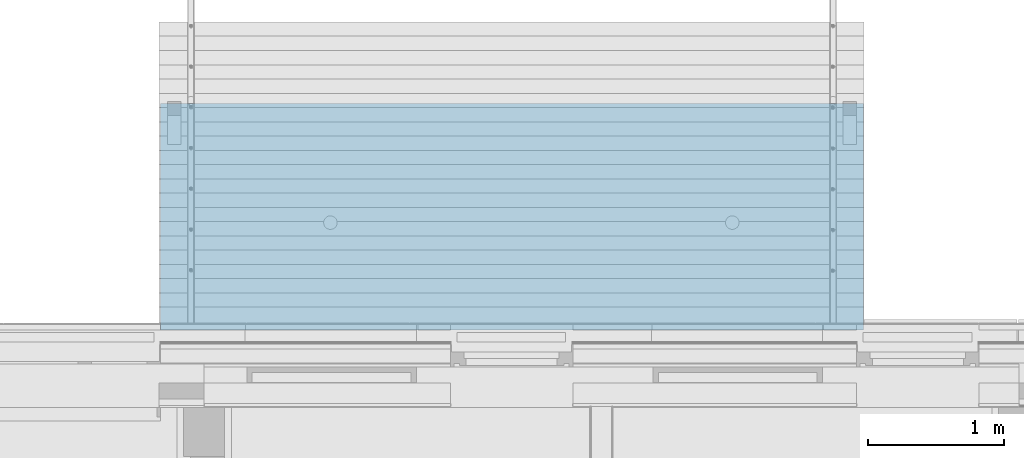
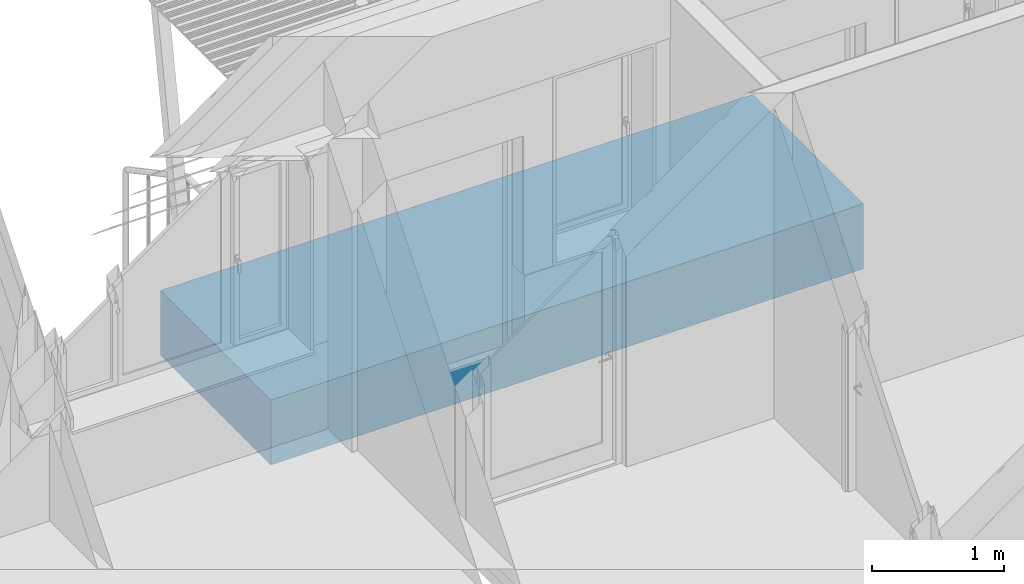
# One storey, part 92 of 418: 1 stair.
"""IFC2X3 building model written with IfcOpenShell, lengths in millimetres."""

import ifcopenshell
import ifcopenshell.guid

model = None  # the IFC model being written
_history = None  # IfcOwnerHistory: only IFC2X3 demands one
_inside = {}  # id of a spatial element -> (the spatial element, [elements in it])
_under = {}  # id of a project, library or spatial element -> (it, [spatial elements below it])
_declared = {}  # id of a project -> (the project, [libraries it declares])
_typed = {}  # id of a type object -> (the type object, [elements of that type])
_made_of = {}  # id of a material, layer set ... -> (it, [elements and type objects made of it])


def new_model(schema):
    """Start an empty IFC model of exactly this schema.

    Asked for "IFC4X3", IfcOpenShell would pick the latest addendum, in which some entities
    have other attributes; the version numbers below select the first issue.
    IFC2X3 requires an IfcOwnerHistory on every rooted entity: one is made here for all.
    """
    global model, _history
    if schema == "IFC4X3":
        model = ifcopenshell.file(schema_version=(4, 3, 0, 0))
    else:
        model = ifcopenshell.file(schema=schema)
    _inside.clear()
    _under.clear()
    _declared.clear()
    _typed.clear()
    _made_of.clear()
    _history = None
    if model.schema == "IFC2X3":
        org = make("IfcOrganization", Name="unknown")
        user = make(
            "IfcPersonAndOrganization",
            ThePerson=make("IfcPerson", FamilyName="unknown"),
            TheOrganization=org,
        )
        app = make(
            "IfcApplication",
            ApplicationDeveloper=org,
            Version="unknown",
            ApplicationFullName="unknown",
            ApplicationIdentifier="unknown",
        )
        _history = make(
            "IfcOwnerHistory",
            OwningUser=user,
            OwningApplication=app,
            ChangeAction="ADDED",
            CreationDate=0,
        )
    return model


def make(cls, **values):
    """One entity of the class cls with the attributes given. An attribute that is None is left unset."""
    return model.create_entity(
        cls, **{name: value for name, value in values.items() if value is not None}
    )


def entity(cls, *values):
    """Any entity or typed value of the class cls, its attributes in the order of the schema. None: left unset."""
    e = model.create_entity(cls)
    for i, value in enumerate(values):
        if value is not None:
            e[i] = value
    return e


def rooted(cls, **values):
    """An entity with a GlobalId (a new one), such as an element, a storey or a relation."""
    return make(cls, GlobalId=ifcopenshell.guid.new(), OwnerHistory=_history, **values)


def si_unit(unit_type, name, prefix=None):
    """IfcSIUnit, for example si_unit("LENGTHUNIT", "METRE", prefix="MILLI")."""
    return make("IfcSIUnit", UnitType=unit_type, Prefix=prefix, Name=name)


def converted_unit(unit_type, name, factor, base, dimensions=None, offset=None):
    """IfcConversionBasedUnit, such as the inch: factor (a typed value) times the base unit."""
    return make(
        "IfcConversionBasedUnit"
        if offset is None
        else "IfcConversionBasedUnitWithOffset",
        ConversionOffset=offset,
        Dimensions=None
        if dimensions is None
        else entity("IfcDimensionalExponents", *dimensions),
        UnitType=unit_type,
        Name=name,
        ConversionFactor=make(
            "IfcMeasureWithUnit", ValueComponent=factor, UnitComponent=base
        ),
    )


def derived_unit(unit_type, elements):
    """IfcDerivedUnit: a product of units, each with its exponent."""
    return make(
        "IfcDerivedUnit",
        Elements=[
            make("IfcDerivedUnitElement", Unit=unit, Exponent=power)
            for unit, power in elements
        ],
        UnitType=unit_type,
    )


def money_unit(currency):
    """IfcMonetaryUnit."""
    return make("IfcMonetaryUnit", Currency=currency)


def assignment(units):
    """IfcUnitAssignment: the units of a project."""
    return None if units is None else make("IfcUnitAssignment", Units=units)


def point(xyz):
    """IfcCartesianPoint."""
    return None if xyz is None else make("IfcCartesianPoint", Coordinates=xyz)


def direction(xyz):
    """IfcDirection."""
    return None if xyz is None else make("IfcDirection", DirectionRatios=xyz)


def frame(location, z_axis=None, x_axis=None):
    """IfcAxis2Placement3D, a coordinate frame: its origin and axes. An axis left out is left unset."""
    return make(
        "IfcAxis2Placement3D",
        Location=point(location),
        Axis=direction(z_axis),
        RefDirection=direction(x_axis),
    )


def origin_with_axes():
    """The frame at (0, 0, 0) with the z axis (0, 0, 1) and the x axis (1, 0, 0) written out."""
    return frame((0.0, 0.0, 0.0), z_axis=(0.0, 0.0, 1.0), x_axis=(1.0, 0.0, 0.0))


def place(relative_to, where):
    """IfcLocalPlacement: puts the frame where relative to a parent placement (None: the world)."""
    return make(
        "IfcLocalPlacement", PlacementRelTo=relative_to, RelativePlacement=where
    )


def context(
    kind, dimensions, precision=None, world=None, true_north=None, identifier=None
):
    """IfcGeometricRepresentationContext, for example the 3D "Model" context."""
    return make(
        "IfcGeometricRepresentationContext",
        ContextIdentifier=identifier,
        ContextType=kind,
        CoordinateSpaceDimension=dimensions,
        Precision=precision,
        WorldCoordinateSystem=world,
        TrueNorth=true_north,
    )


def subcontext(parent, identifier, kind, view, scale=None):
    """IfcGeometricRepresentationSubContext, for example "Body" below "Model"."""
    return make(
        "IfcGeometricRepresentationSubContext",
        ContextIdentifier=identifier,
        ContextType=kind,
        ParentContext=parent,
        TargetScale=scale,
        TargetView=view,
    )


def project(units=None, contexts=None):
    """IfcProject with its units and contexts."""
    return rooted(
        "IfcProject",
        Name="project",
        RepresentationContexts=contexts,
        UnitsInContext=assignment(units),
    )


def spatial(cls, under=None, at=None, **own):
    """A site, building, storey or space (cls), placed at a placement, below another one or the project."""
    s = rooted(cls, ObjectPlacement=at, **own)
    if under is not None:
        _under.setdefault(under.id(), (under, []))[1].append(s)
    return s


def polyline(points):
    """IfcPolyline through the points."""
    return make("IfcPolyline", Points=[point(p) for p in points])


def outline(outer, holes=None, kind="AREA"):
    """IfcArbitraryClosedProfileDef: a profile drawn as a closed curve; with holes, ...WithVoids."""
    if holes is None:
        return make("IfcArbitraryClosedProfileDef", ProfileType=kind, OuterCurve=outer)
    return make(
        "IfcArbitraryProfileDefWithVoids",
        ProfileType=kind,
        OuterCurve=outer,
        InnerCurves=holes,
    )


def extrude(swept, where, along, depth):
    """IfcExtrudedAreaSolid: the profile swept, set in the frame where, extruded along a direction by depth."""
    return make(
        "IfcExtrudedAreaSolid",
        SweptArea=swept,
        Position=where,
        ExtrudedDirection=direction(along),
        Depth=depth,
    )


def boolean(op, a, b):
    """IfcBooleanResult of two solids."""
    return make("IfcBooleanResult", Operator=op, FirstOperand=a, SecondOperand=b)


def faces_of(points, faces, orient=None, outer=None):
    """IfcFace entities. A face is a list of loops; a loop is a list of indices into points, from 0.

    orient and outer hold one flag for each loop. By default every Orientation is true, the
    first loop of a face is its IfcFaceOuterBound and the others are IfcFaceBound.
    """
    made = []
    for i, loops in enumerate(faces):
        bounds = []
        for j, loop in enumerate(loops):
            is_outer = j == 0 if outer is None else outer[i][j]
            bounds.append(
                make(
                    "IfcFaceOuterBound" if is_outer else "IfcFaceBound",
                    Bound=make("IfcPolyLoop", Polygon=[points[k] for k in loop]),
                    Orientation=True if orient is None else orient[i][j],
                )
            )
        made.append(make("IfcFace", Bounds=bounds))
    return made


def faceted_brep(points, faces, orient=None, outer=None, voids=None):
    """IfcFacetedBrep: a solid bounded by flat faces; with voids (closed shells), ...WithVoids."""
    shared = [point(p) for p in points]
    hull = make("IfcClosedShell", CfsFaces=faces_of(shared, faces, orient, outer))
    if voids is None:
        return make("IfcFacetedBrep", Outer=hull)
    return make(
        "IfcFacetedBrepWithVoids",
        Outer=hull,
        Voids=[
            make(cls, CfsFaces=faces_of(shared, fs, o, b)) for cls, fs, o, b in voids
        ],
    )


def shape(context_of_items, identifier, shape_type, items):
    """IfcShapeRepresentation: the items that make up one representation, for example the "Body"."""
    return make(
        "IfcShapeRepresentation",
        ContextOfItems=context_of_items,
        RepresentationIdentifier=identifier,
        RepresentationType=shape_type,
        Items=items,
    )


def material(Name=None, Category=None):
    """IfcMaterial."""
    return make("IfcMaterial", Name=Name, Category=Category)


def made_of(thing, what):
    """Note that an element or type object is made of a material, layer set ...; save() writes the relation."""
    if what is not None:
        _made_of.setdefault(what.id(), (what, []))[1].append(thing)
    return thing


def element(
    cls,
    number,
    at=None,
    inside=None,
    cuts=None,
    type_object=None,
    material=None,
    context=None,
    identifier="Body",
    shape_type=None,
    held_by="IfcProductDefinitionShape",
    body=None,
    shapes=None,
    **own,
):
    """One element of the class cls, such as IfcWall. Its Tag is "e" and its number.

    at: its placement. inside: the storey or other place that contains it. cuts: it is an
    opening in that element (IfcRelVoidsElement). A single representation is given by context,
    identifier, shape_type and body (its items); several are given by shapes. held_by: the class
    of the entity that holds the representations. save() writes the other relations.
    """
    e = rooted(cls, Tag="e%d" % number, ObjectPlacement=at, **own)
    if body is not None:
        shapes = [shape(context, identifier, shape_type, body)]
    if shapes is not None:
        e.Representation = make(held_by, Representations=shapes)
    if inside is not None:
        _inside.setdefault(inside.id(), (inside, []))[1].append(e)
    if cuts is not None:
        rooted(
            "IfcRelVoidsElement", RelatingBuildingElement=cuts, RelatedOpeningElement=e
        )
    if type_object is not None:
        _typed.setdefault(type_object.id(), (type_object, []))[1].append(e)
    return made_of(e, material)


def aggregate(whole, parts):
    """IfcRelAggregates: a whole, such as a stair, and the parts it consists of."""
    return rooted("IfcRelAggregates", RelatingObject=whole, RelatedObjects=parts)


def save(model, path):
    """Write the relations noted so far, then the file.

    IfcRelAggregates (storeys below a building ...), IfcRelContainedInSpatialStructure (elements
    in a storey), IfcRelDefinesByType, IfcRelAssociatesMaterial and IfcRelDeclares: one each for
    every whole, place, type object, material and project.
    """
    for whole, parts in _under.values():
        aggregate(whole, parts)
    for where, things in _inside.values():
        rooted(
            "IfcRelContainedInSpatialStructure",
            RelatedElements=things,
            RelatingStructure=where,
        )
    for kind, things in _typed.values():
        rooted("IfcRelDefinesByType", RelatedObjects=things, RelatingType=kind)
    for what, things in _made_of.values():
        rooted("IfcRelAssociatesMaterial", RelatedObjects=things, RelatingMaterial=what)
    for by, libraries in _declared.values():
        rooted("IfcRelDeclares", RelatingContext=by, RelatedDefinitions=libraries)
    model.write(path)


model = new_model("IFC2X3")

# Units and contexts
model_context = context("Model", 3, precision=0.01, world=origin_with_axes(), true_north=direction((0.0, 1.0)))
body_context = subcontext(model_context, "Body", "Model", "MODEL_VIEW")
ifc_project = project(units=[si_unit("LENGTHUNIT", "METRE", prefix="MILLI"), si_unit("AREAUNIT", "SQUARE_METRE"), si_unit("VOLUMEUNIT", "CUBIC_METRE"), converted_unit("PLANEANGLEUNIT", "DEGREE", entity("IfcPlaneAngleMeasure", 0.0174532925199), si_unit("PLANEANGLEUNIT", "RADIAN"), dimensions=[0, 0, 0, 0, 0, 0, 0]), si_unit("SOLIDANGLEUNIT", "STERADIAN"), money_unit("EUR"), converted_unit("TIMEUNIT", "Year", entity("IfcTimeMeasure", 31556926.0), si_unit("TIMEUNIT", "SECOND"), dimensions=[0, 0, 1, 0, 0, 0, 0]), si_unit("MASSUNIT", "GRAM", prefix="KILO"), si_unit("THERMODYNAMICTEMPERATUREUNIT", "DEGREE_CELSIUS"), si_unit("LUMINOUSINTENSITYUNIT", "LUMEN"), si_unit("ENERGYUNIT", "JOULE", prefix="MEGA"), derived_unit("THERMALCONDUCTANCEUNIT", [(si_unit("POWERUNIT", "WATT"), 1), (si_unit("LENGTHUNIT", "METRE"), -1), (si_unit("THERMODYNAMICTEMPERATUREUNIT", "KELVIN"), -1)]), derived_unit("SPECIFICHEATCAPACITYUNIT", [(si_unit("ENERGYUNIT", "JOULE"), 1), (si_unit("MASSUNIT", "GRAM", prefix="KILO"), -1), (si_unit("THERMODYNAMICTEMPERATUREUNIT", "KELVIN"), -1)]), derived_unit("MASSDENSITYUNIT", [(si_unit("MASSUNIT", "GRAM", prefix="KILO"), 1), (si_unit("VOLUMEUNIT", "CUBIC_METRE"), -1)])], contexts=[model_context])

# Site, building, storey
site_placement = place(None, origin_with_axes())
site = spatial("IfcSite", under=ifc_project, at=site_placement, Name="Paldiski mnt 245/1, Tallinn, Harjumaa", CompositionType="COMPLEX")
building_placement = place(site_placement, origin_with_axes())
building = spatial("IfcBuilding", under=site, at=building_placement, Name="RKAS Hoone üldnimetus (kasutust iseloomustav) -> IFC Project Manager -> SOLIBRI", CompositionType="ELEMENT")
storey_placement = place(building_placement, origin_with_axes())
storey = spatial("IfcBuildingStorey", under=building, at=storey_placement, Name="Esimene korrus", CompositionType="ELEMENT", Elevation=0.0)

# Stair
ifc_material = material(Name="KON-06_Raudbetoon - Konstruktsioon")
stair_placement = place(storey_placement, frame((-36586.0, 460.000000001, -20.0), z_axis=(0.0, 0.0, 1.0), x_axis=(1.0, 0.0, 0.0)))
element("IfcStair", 1, at=stair_placement, inside=storey, material=ifc_material, Name="Välistrepp", ShapeType="NOTDEFINED", context=body_context, shape_type="CSG", body=[
    boolean("DIFFERENCE", boolean("DIFFERENCE", extrude(outline(polyline([(0.0, 0.0), (0.0, 1669.80050104), (-5174.55032631, 1669.80050104), (-5174.55032631, 1.06581410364e-10), (0.0, 0.0)])), frame((0.0, 0.0, -600.0), z_axis=(0.0, 0.0, 1.0), x_axis=(1.0, 0.0, 0.0)), (0.0, 0.0, 1.0), 600.0), faceted_brep([(-4428.99999743, 541.999997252, 0.0), (-3428.99999743, 541.999997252, 0.0), (-3428.99999743, 1041.99999725, 0.0), (-4428.99999743, 1041.99999725, 0.0), (-4428.99999743, 541.999997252, -60.0), (-3428.99999743, 541.999997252, -60.0), (-3428.99999743, 1041.99999725, -60.0), (-4428.99999743, 1041.99999725, -60.0), (-3983.99999743, 796.811869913, -60.0), (-3983.99999743, 791.999997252, -60.0), (-3983.99999743, 787.188124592, -60.0), (-3982.32884551, 777.710574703, -60.0), (-3979.03733977, 768.667200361, -60.0), (-3976.63139495, 764.499997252, -60.0), (-3974.22545221, 760.332794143, -60.0), (-3968.03942296, 752.960571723, -60.0), (-3960.66720054, 746.774542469, -60.0), (-3956.49999743, 744.368599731, -60.0), (-3952.33279432, 741.962654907, -60.0), (-3943.28941998, 738.671149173, -60.0), (-3933.81187009, 736.999997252, -60.0), (-3928.99999743, 736.999997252, -60.0), (-3924.18812477, 736.999997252, -60.0), (-3914.71057488, 738.671149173, -60.0), (-3905.66720054, 741.962654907, -60.0), (-3901.49999743, 744.368599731, -60.0), (-3897.33279432, 746.774542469, -60.0), (-3889.9605719, 752.960571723, -60.0), (-3883.77454264, 760.332794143, -60.0), (-3881.36859991, 764.499997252, -60.0), (-3878.96265508, 768.667200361, -60.0), (-3875.67114935, 777.710574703, -60.0), (-3873.99999743, 787.188124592, -60.0), (-3873.99999743, 791.999997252, -60.0), (-3873.99999743, 796.811869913, -60.0), (-3875.67114935, 806.289419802, -60.0), (-3878.96265508, 815.332794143, -60.0), (-3881.36859991, 819.499997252, -60.0), (-3883.77454264, 823.667200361, -60.0), (-3889.9605719, 831.039422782, -60.0), (-3897.33279432, 837.225452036, -60.0), (-3901.49999743, 839.631394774, -60.0), (-3905.66720054, 842.037339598, -60.0), (-3914.71057488, 845.328845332, -60.0), (-3924.18812477, 846.999997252, -60.0), (-3928.99999743, 846.999997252, -60.0), (-3933.81187009, 846.999997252, -60.0), (-3943.28941998, 845.328845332, -60.0), (-3952.33279432, 842.037339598, -60.0), (-3956.49999743, 839.631394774, -60.0), (-3960.66720054, 837.225452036, -60.0), (-3968.03942296, 831.039422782, -60.0), (-3974.22545221, 823.667200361, -60.0), (-3976.63139495, 819.499997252, -60.0), (-3979.03733977, 815.332794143, -60.0), (-3982.32884551, 806.289419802, -60.0), (-3983.99999743, 796.811869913, -20.0), (-3983.99999743, 791.999997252, -20.0), (-3983.99999743, 791.999997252, -20.0), (-3983.99999743, 787.188124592, -20.0), (-3982.32884551, 777.710574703, -20.0), (-3979.03733977, 768.667200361, -20.0), (-3976.63139495, 764.499997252, -20.0), (-3976.63139495, 764.499997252, -20.0), (-3974.22545221, 760.332794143, -20.0), (-3968.03942296, 752.960571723, -20.0), (-3960.66720054, 746.774542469, -20.0), (-3956.49999743, 744.368599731, -20.0), (-3956.49999743, 744.368599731, -20.0), (-3952.33279432, 741.962654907, -20.0), (-3943.28941998, 738.671149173, -20.0), (-3933.81187009, 736.999997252, -20.0), (-3928.99999743, 736.999997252, -20.0), (-3928.99999743, 736.999997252, -20.0), (-3924.18812477, 736.999997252, -20.0), (-3914.71057488, 738.671149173, -20.0), (-3905.66720054, 741.962654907, -20.0), (-3901.49999743, 744.368599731, -20.0), (-3901.49999743, 744.368599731, -20.0), (-3897.33279432, 746.774542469, -20.0), (-3889.9605719, 752.960571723, -20.0), (-3883.77454264, 760.332794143, -20.0), (-3881.36859991, 764.499997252, -20.0), (-3881.36859991, 764.499997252, -20.0), (-3878.96265508, 768.667200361, -20.0), (-3875.67114935, 777.710574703, -20.0), (-3873.99999743, 787.188124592, -20.0), (-3873.99999743, 791.999997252, -20.0), (-3873.99999743, 791.999997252, -20.0), (-3873.99999743, 796.811869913, -20.0), (-3875.67114935, 806.289419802, -20.0), (-3878.96265508, 815.332794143, -20.0), (-3881.36859991, 819.499997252, -20.0), (-3881.36859991, 819.499997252, -20.0), (-3883.77454264, 823.667200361, -20.0), (-3889.9605719, 831.039422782, -20.0), (-3897.33279432, 837.225452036, -20.0), (-3901.49999743, 839.631394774, -20.0), (-3901.49999743, 839.631394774, -20.0), (-3905.66720054, 842.037339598, -20.0), (-3914.71057488, 845.328845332, -20.0), (-3924.18812477, 846.999997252, -20.0), (-3928.99999743, 846.999997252, -20.0), (-3928.99999743, 846.999997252, -20.0), (-3933.81187009, 846.999997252, -20.0), (-3943.28941998, 845.328845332, -20.0), (-3952.33279432, 842.037339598, -20.0), (-3956.49999743, 839.631394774, -20.0), (-3956.49999743, 839.631394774, -20.0), (-3960.66720054, 837.225452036, -20.0), (-3968.03942296, 831.039422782, -20.0), (-3974.22545221, 823.667200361, -20.0), (-3976.63139495, 819.499997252, -20.0), (-3976.63139495, 819.499997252, -20.0), (-3979.03733977, 815.332794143, -20.0), (-3982.32884551, 806.289419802, -20.0), (-3982.12591862, 806.235045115, -20.0), (-3982.12591862, 806.235045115, -300.0), (-3983.99999743, 791.999997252, -300.0), (-3982.12591862, 777.76494939, -20.0), (-3982.12591862, 777.76494939, -300.0), (-3976.63139495, 764.499997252, -300.0), (-3967.89087075, 753.109123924, -300.0), (-3967.89087075, 753.109123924, -20.0), (-3956.49999743, 744.368599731, -300.0), (-3943.23504529, 738.874076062, -300.0), (-3943.23504529, 738.874076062, -20.0), (-3928.99999743, 736.999997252, -300.0), (-3914.76494956, 738.874076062, -300.0), (-3914.76494956, 738.874076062, -20.0), (-3901.49999743, 744.368599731, -300.0), (-3890.1091241, 753.109123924, -300.0), (-3890.1091241, 753.109123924, -20.0), (-3881.36859991, 764.499997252, -300.0), (-3875.87407624, 777.76494939, -300.0), (-3875.87407624, 777.76494939, -20.0), (-3873.99999743, 791.999997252, -300.0), (-3875.87407624, 806.235045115, -300.0), (-3875.87407624, 806.235045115, -20.0), (-3881.36859991, 819.499997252, -300.0), (-3890.1091241, 830.890870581, -300.0), (-3890.1091241, 830.890870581, -20.0), (-3901.49999743, 839.631394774, -300.0), (-3914.76494956, 845.125918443, -300.0), (-3914.76494956, 845.125918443, -20.0), (-3928.99999743, 846.999997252, -300.0), (-3943.23504529, 845.125918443, -300.0), (-3943.23504529, 845.125918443, -20.0), (-3956.49999743, 839.631394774, -300.0), (-3967.89087075, 830.890870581, -300.0), (-3967.89087075, 830.890870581, -20.0), (-3976.63139495, 819.499997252, -300.0), (-3977.29628808, 804.940949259, -300.0), (-3978.99999743, 791.999997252, -300.0), (-3977.29628808, 779.059045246, -300.0), (-3972.30126775, 766.999997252, -300.0), (-3964.35533607, 756.644658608, -300.0), (-3953.99999743, 748.698726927, -300.0), (-3941.94094943, 743.703706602, -300.0), (-3928.99999743, 741.999997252, -300.0), (-3916.05904542, 743.703706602, -300.0), (-3903.99999743, 748.698726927, -300.0), (-3893.64465878, 756.644658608, -300.0), (-3885.6987271, 766.999997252, -300.0), (-3880.70370678, 779.059045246, -300.0), (-3878.99999743, 791.999997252, -300.0), (-3880.70370678, 804.940949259, -300.0), (-3885.6987271, 816.999997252, -300.0), (-3893.64465878, 827.355335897, -300.0), (-3903.99999743, 835.301267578, -300.0), (-3916.05904542, 840.296287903, -300.0), (-3928.99999743, 841.999997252, -300.0), (-3941.94094943, 840.296287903, -300.0), (-3953.99999743, 835.301267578, -300.0), (-3964.35533607, 827.355335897, -300.0), (-3972.30126775, 816.999997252, -300.0), (-3977.29628808, 804.940949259, -20.0), (-3978.99999743, 791.999997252, -20.0), (-3977.29628808, 779.059045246, -20.0), (-3972.30126775, 766.999997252, -20.0), (-3964.35533607, 756.644658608, -20.0), (-3953.99999743, 748.698726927, -20.0), (-3941.94094943, 743.703706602, -20.0), (-3928.99999743, 741.999997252, -20.0), (-3916.05904542, 743.703706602, -20.0), (-3903.99999743, 748.698726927, -20.0), (-3893.64465878, 756.644658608, -20.0), (-3885.6987271, 766.999997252, -20.0), (-3880.70370678, 779.059045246, -20.0), (-3878.99999743, 791.999997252, -20.0), (-3880.70370678, 804.940949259, -20.0), (-3885.6987271, 816.999997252, -20.0), (-3893.64465878, 827.355335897, -20.0), (-3903.99999743, 835.301267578, -20.0), (-3916.05904542, 840.296287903, -20.0), (-3928.99999743, 841.999997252, -20.0), (-3941.94094943, 840.296287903, -20.0), (-3953.99999743, 835.301267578, -20.0), (-3964.35533607, 827.355335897, -20.0), (-3972.30126775, 816.999997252, -20.0)], [[[0, 1, 2, 3]], [[1, 0, 4, 5]], [[2, 1, 5, 6]], [[3, 2, 6, 7]], [[0, 3, 7, 4]], [[4, 7, 6, 5], [8, 9, 10, 11, 12, 13, 14, 15, 16, 17, 18, 19, 20, 21, 22, 23, 24, 25, 26, 27, 28, 29, 30, 31, 32, 33, 34, 35, 36, 37, 38, 39, 40, 41, 42, 43, 44, 45, 46, 47, 48, 49, 50, 51, 52, 53, 54, 55]], [[9, 8, 56, 57]], [[10, 9, 58, 59]], [[11, 10, 59, 60]], [[12, 11, 60, 61]], [[13, 12, 61, 62]], [[14, 13, 63, 64]], [[15, 14, 64, 65]], [[16, 15, 65, 66]], [[17, 16, 66, 67]], [[18, 17, 68, 69]], [[19, 18, 69, 70]], [[20, 19, 70, 71]], [[21, 20, 71, 72]], [[22, 21, 73, 74]], [[23, 22, 74, 75]], [[24, 23, 75, 76]], [[25, 24, 76, 77]], [[26, 25, 78, 79]], [[27, 26, 79, 80]], [[28, 27, 80, 81]], [[29, 28, 81, 82]], [[30, 29, 83, 84]], [[31, 30, 84, 85]], [[32, 31, 85, 86]], [[33, 32, 86, 87]], [[34, 33, 88, 89]], [[35, 34, 89, 90]], [[36, 35, 90, 91]], [[37, 36, 91, 92]], [[38, 37, 93, 94]], [[39, 38, 94, 95]], [[40, 39, 95, 96]], [[41, 40, 96, 97]], [[42, 41, 98, 99]], [[43, 42, 99, 100]], [[44, 43, 100, 101]], [[45, 44, 101, 102]], [[46, 45, 103, 104]], [[47, 46, 104, 105]], [[48, 47, 105, 106]], [[49, 48, 106, 107]], [[50, 49, 108, 109]], [[51, 50, 109, 110]], [[52, 51, 110, 111]], [[53, 52, 111, 112]], [[54, 53, 113, 114]], [[55, 54, 114, 115]], [[8, 55, 115, 56]], [[57, 56, 115, 114, 113, 116]], [[57, 116, 117, 118, 9]], [[119, 58, 9, 118, 120]], [[60, 59, 58, 119, 62, 61]], [[62, 119, 120, 121, 13]], [[121, 122, 123, 63, 13]], [[63, 123, 67, 66, 65, 64]], [[122, 124, 17, 67, 123]], [[124, 125, 126, 68, 17]], [[69, 68, 126, 72, 71, 70]], [[125, 127, 21, 72, 126]], [[127, 128, 129, 73, 21]], [[73, 129, 77, 76, 75, 74]], [[128, 130, 25, 77, 129]], [[130, 131, 132, 78, 25]], [[78, 132, 82, 81, 80, 79]], [[131, 133, 29, 82, 132]], [[133, 134, 135, 83, 29]], [[83, 135, 87, 86, 85, 84]], [[134, 136, 33, 87, 135]], [[136, 137, 138, 88, 33]], [[138, 92, 91, 90, 89, 88]], [[137, 139, 37, 92, 138]], [[139, 140, 141, 93, 37]], [[97, 96, 95, 94, 93, 141]], [[140, 142, 41, 97, 141]], [[142, 143, 144, 98, 41]], [[102, 101, 100, 99, 98, 144]], [[143, 145, 45, 102, 144]], [[145, 146, 147, 103, 45]], [[147, 107, 106, 105, 104, 103]], [[146, 148, 49, 107, 147]], [[148, 149, 150, 108, 49]], [[112, 111, 110, 109, 108, 150]], [[149, 151, 53, 112, 150]], [[116, 113, 53, 151, 117]], [[120, 118, 117, 151, 149, 148, 146, 145, 143, 142, 140, 139, 137, 136, 134, 133, 131, 130, 128, 127, 125, 124, 122, 121], [152, 153, 154, 155, 156, 157, 158, 159, 160, 161, 162, 163, 164, 165, 166, 167, 168, 169, 170, 171, 172, 173, 174, 175]], [[153, 152, 176, 177]], [[154, 153, 177, 178]], [[155, 154, 178, 179]], [[156, 155, 179, 180]], [[157, 156, 180, 181]], [[158, 157, 181, 182]], [[159, 158, 182, 183]], [[160, 159, 183, 184]], [[161, 160, 184, 185]], [[162, 161, 185, 186]], [[163, 162, 186, 187]], [[164, 163, 187, 188]], [[165, 164, 188, 189]], [[166, 165, 189, 190]], [[167, 166, 190, 191]], [[168, 167, 191, 192]], [[169, 168, 192, 193]], [[170, 169, 193, 194]], [[171, 170, 194, 195]], [[172, 171, 195, 196]], [[173, 172, 196, 197]], [[174, 173, 197, 198]], [[175, 174, 198, 199]], [[152, 175, 199, 176]], [[177, 176, 199, 198, 197, 196, 195, 194, 193, 192, 191, 190, 189, 188, 187, 186, 185, 184, 183, 182, 181, 180, 179, 178]]])), faceted_brep([(-1470.37879784, 541.999997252, 0.0), (-470.378797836, 541.999997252, 0.0), (-470.378797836, 1041.99999725, 0.0), (-1470.37879784, 1041.99999725, 0.0), (-1470.37879784, 541.999997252, -60.0), (-470.378797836, 541.999997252, -60.0), (-470.378797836, 1041.99999725, -60.0), (-1470.37879784, 1041.99999725, -60.0), (-1025.37879784, 791.999997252, -60.0), (-1025.37879784, 787.188124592, -60.0), (-1023.70764592, 777.710574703, -60.0), (-1020.41614018, 768.667200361, -60.0), (-1018.01019536, 764.499997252, -60.0), (-1015.60425262, 760.332794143, -60.0), (-1009.41822337, 752.960571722, -60.0), (-1002.04600095, 746.774542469, -60.0), (-997.878797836, 744.368599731, -60.0), (-993.711594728, 741.962654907, -60.0), (-984.668220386, 738.671149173, -60.0), (-975.190670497, 736.999997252, -60.0), (-970.378797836, 736.999997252, -60.0), (-965.566925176, 736.999997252, -60.0), (-956.089375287, 738.671149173, -60.0), (-947.046000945, 741.962654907, -60.0), (-942.878797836, 744.368599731, -60.0), (-938.711594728, 746.774542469, -60.0), (-931.339372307, 752.960571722, -60.0), (-925.153343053, 760.332794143, -60.0), (-922.747400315, 764.499997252, -60.0), (-920.341455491, 768.667200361, -60.0), (-917.049949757, 777.710574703, -60.0), (-915.378797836, 787.188124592, -60.0), (-915.378797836, 791.999997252, -60.0), (-915.378797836, 796.811869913, -60.0), (-917.049949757, 806.289419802, -60.0), (-920.341455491, 815.332794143, -60.0), (-922.747400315, 819.499997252, -60.0), (-925.153343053, 823.667200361, -60.0), (-931.339372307, 831.039422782, -60.0), (-938.711594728, 837.225452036, -60.0), (-942.878797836, 839.631394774, -60.0), (-947.046000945, 842.037339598, -60.0), (-956.089375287, 845.328845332, -60.0), (-965.566925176, 846.999997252, -60.0), (-970.378797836, 846.999997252, -60.0), (-975.190670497, 846.999997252, -60.0), (-984.668220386, 845.328845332, -60.0), (-993.711594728, 842.037339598, -60.0), (-997.878797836, 839.631394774, -60.0), (-1002.04600095, 837.225452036, -60.0), (-1009.41822337, 831.039422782, -60.0), (-1015.60425262, 823.667200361, -60.0), (-1018.01019536, 819.499997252, -60.0), (-1020.41614018, 815.332794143, -60.0), (-1023.70764592, 806.289419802, -60.0), (-1025.37879784, 796.811869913, -60.0), (-1025.37879784, 791.999997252, -20.0), (-1025.37879784, 787.188124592, -20.0), (-1023.70764592, 777.710574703, -20.0), (-1020.41614018, 768.667200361, -20.0), (-1018.01019536, 764.499997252, -20.0), (-1018.01019536, 764.499997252, -20.0), (-1015.60425262, 760.332794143, -20.0), (-1009.41822337, 752.960571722, -20.0), (-1002.04600095, 746.774542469, -20.0), (-997.878797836, 744.368599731, -20.0), (-997.878797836, 744.368599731, -20.0), (-993.711594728, 741.962654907, -20.0), (-984.668220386, 738.671149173, -20.0), (-975.190670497, 736.999997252, -20.0), (-970.378797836, 736.999997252, -20.0), (-970.378797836, 736.999997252, -20.0), (-965.566925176, 736.999997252, -20.0), (-956.089375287, 738.671149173, -20.0), (-947.046000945, 741.962654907, -20.0), (-942.878797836, 744.368599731, -20.0), (-942.878797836, 744.368599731, -20.0), (-938.711594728, 746.774542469, -20.0), (-931.339372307, 752.960571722, -20.0), (-925.153343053, 760.332794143, -20.0), (-922.747400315, 764.499997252, -20.0), (-922.747400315, 764.499997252, -20.0), (-920.341455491, 768.667200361, -20.0), (-917.049949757, 777.710574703, -20.0), (-915.378797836, 787.188124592, -20.0), (-915.378797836, 791.999997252, -20.0), (-915.378797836, 791.999997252, -20.0), (-915.378797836, 796.811869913, -20.0), (-917.049949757, 806.289419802, -20.0), (-920.341455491, 815.332794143, -20.0), (-922.747400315, 819.499997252, -20.0), (-922.747400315, 819.499997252, -20.0), (-925.153343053, 823.667200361, -20.0), (-931.339372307, 831.039422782, -20.0), (-938.711594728, 837.225452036, -20.0), (-942.878797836, 839.631394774, -20.0), (-942.878797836, 839.631394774, -20.0), (-947.046000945, 842.037339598, -20.0), (-956.089375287, 845.328845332, -20.0), (-965.566925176, 846.999997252, -20.0), (-970.378797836, 846.999997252, -20.0), (-970.378797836, 846.999997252, -20.0), (-975.190670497, 846.999997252, -20.0), (-984.668220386, 845.328845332, -20.0), (-993.711594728, 842.037339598, -20.0), (-997.878797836, 839.631394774, -20.0), (-997.878797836, 839.631394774, -20.0), (-1002.04600095, 837.225452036, -20.0), (-1009.41822337, 831.039422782, -20.0), (-1015.60425262, 823.667200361, -20.0), (-1018.01019536, 819.499997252, -20.0), (-1018.01019536, 819.499997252, -20.0), (-1020.41614018, 815.332794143, -20.0), (-1023.70764592, 806.289419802, -20.0), (-1025.37879784, 796.811869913, -20.0), (-1025.37879784, 791.999997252, -20.0), (-1025.37879784, 791.999997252, -300.0), (-1023.50471903, 777.76494939, -300.0), (-1023.50471903, 777.76494939, -20.0), (-1018.01019536, 764.499997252, -300.0), (-1009.26967116, 753.109123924, -300.0), (-1009.26967116, 753.109123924, -20.0), (-997.878797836, 744.368599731, -300.0), (-984.613845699, 738.874076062, -300.0), (-984.613845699, 738.874076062, -20.0), (-970.378797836, 736.999997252, -300.0), (-956.143749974, 738.874076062, -300.0), (-956.143749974, 738.874076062, -20.0), (-942.878797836, 744.368599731, -300.0), (-931.487924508, 753.109123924, -300.0), (-931.487924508, 753.109123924, -20.0), (-922.747400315, 764.499997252, -300.0), (-917.252876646, 777.76494939, -300.0), (-917.252876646, 777.76494939, -20.0), (-915.378797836, 791.999997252, -300.0), (-917.252876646, 806.235045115, -300.0), (-917.252876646, 806.235045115, -20.0), (-922.747400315, 819.499997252, -300.0), (-931.487924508, 830.89087058, -300.0), (-931.487924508, 830.89087058, -20.0), (-942.878797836, 839.631394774, -300.0), (-956.143749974, 845.125918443, -300.0), (-956.143749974, 845.125918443, -20.0), (-970.378797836, 846.999997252, -300.0), (-984.613845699, 845.125918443, -300.0), (-984.613845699, 845.125918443, -20.0), (-997.878797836, 839.631394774, -300.0), (-1009.26967116, 830.89087058, -300.0), (-1009.26967116, 830.89087058, -20.0), (-1018.01019536, 819.499997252, -300.0), (-1023.50471903, 806.235045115, -300.0), (-1023.50471903, 806.235045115, -20.0), (-1020.37879784, 791.999997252, -300.0), (-1018.67508849, 779.059045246, -300.0), (-1013.68006816, 766.999997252, -300.0), (-1005.73413648, 756.644658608, -300.0), (-995.378797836, 748.698726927, -300.0), (-983.319749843, 743.703706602, -300.0), (-970.378797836, 741.999997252, -300.0), (-957.43784583, 743.703706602, -300.0), (-945.378797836, 748.698726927, -300.0), (-935.023459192, 756.644658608, -300.0), (-927.077527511, 766.999997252, -300.0), (-922.082507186, 779.059045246, -300.0), (-920.378797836, 791.999997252, -300.0), (-922.082507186, 804.940949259, -300.0), (-927.077527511, 816.999997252, -300.0), (-935.023459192, 827.355335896, -300.0), (-945.378797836, 835.301267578, -300.0), (-957.43784583, 840.296287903, -300.0), (-970.378797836, 841.999997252, -300.0), (-983.319749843, 840.296287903, -300.0), (-995.378797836, 835.301267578, -300.0), (-1005.73413648, 827.355335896, -300.0), (-1013.68006816, 816.999997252, -300.0), (-1018.67508849, 804.940949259, -300.0), (-1020.37879784, 791.999997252, -20.0), (-1018.67508849, 779.059045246, -20.0), (-1013.68006816, 766.999997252, -20.0), (-1005.73413648, 756.644658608, -20.0), (-995.378797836, 748.698726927, -20.0), (-983.319749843, 743.703706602, -20.0), (-970.378797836, 741.999997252, -20.0), (-957.43784583, 743.703706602, -20.0), (-945.378797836, 748.698726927, -20.0), (-935.023459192, 756.644658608, -20.0), (-927.077527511, 766.999997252, -20.0), (-922.082507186, 779.059045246, -20.0), (-920.378797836, 791.999997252, -20.0), (-922.082507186, 804.940949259, -20.0), (-927.077527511, 816.999997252, -20.0), (-935.023459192, 827.355335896, -20.0), (-945.378797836, 835.301267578, -20.0), (-957.43784583, 840.296287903, -20.0), (-970.378797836, 841.999997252, -20.0), (-983.319749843, 840.296287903, -20.0), (-995.378797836, 835.301267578, -20.0), (-1005.73413648, 827.355335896, -20.0), (-1013.68006816, 816.999997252, -20.0), (-1018.67508849, 804.940949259, -20.0)], [[[0, 1, 2, 3]], [[1, 0, 4, 5]], [[2, 1, 5, 6]], [[3, 2, 6, 7]], [[0, 3, 7, 4]], [[7, 6, 5, 4], [8, 9, 10, 11, 12, 13, 14, 15, 16, 17, 18, 19, 20, 21, 22, 23, 24, 25, 26, 27, 28, 29, 30, 31, 32, 33, 34, 35, 36, 37, 38, 39, 40, 41, 42, 43, 44, 45, 46, 47, 48, 49, 50, 51, 52, 53, 54, 55]], [[8, 56, 57, 9]], [[9, 57, 58, 10]], [[10, 58, 59, 11]], [[11, 59, 60, 12]], [[12, 61, 62, 13]], [[13, 62, 63, 14]], [[14, 63, 64, 15]], [[15, 64, 65, 16]], [[16, 66, 67, 17]], [[17, 67, 68, 18]], [[18, 68, 69, 19]], [[19, 69, 70, 20]], [[20, 71, 72, 21]], [[21, 72, 73, 22]], [[22, 73, 74, 23]], [[23, 74, 75, 24]], [[24, 76, 77, 25]], [[25, 77, 78, 26]], [[26, 78, 79, 27]], [[27, 79, 80, 28]], [[28, 81, 82, 29]], [[29, 82, 83, 30]], [[30, 83, 84, 31]], [[31, 84, 85, 32]], [[32, 86, 87, 33]], [[33, 87, 88, 34]], [[34, 88, 89, 35]], [[35, 89, 90, 36]], [[36, 91, 92, 37]], [[37, 92, 93, 38]], [[38, 93, 94, 39]], [[39, 94, 95, 40]], [[40, 96, 97, 41]], [[41, 97, 98, 42]], [[42, 98, 99, 43]], [[43, 99, 100, 44]], [[44, 101, 102, 45]], [[45, 102, 103, 46]], [[46, 103, 104, 47]], [[47, 104, 105, 48]], [[48, 106, 107, 49]], [[49, 107, 108, 50]], [[50, 108, 109, 51]], [[51, 109, 110, 52]], [[52, 111, 112, 53]], [[53, 112, 113, 54]], [[54, 113, 114, 55]], [[55, 114, 115, 8]], [[56, 8, 116, 117, 118]], [[57, 56, 118, 60, 59, 58]], [[118, 117, 119, 12, 60]], [[120, 121, 61, 12, 119]], [[121, 65, 64, 63, 62, 61]], [[122, 16, 65, 121, 120]], [[123, 124, 66, 16, 122]], [[66, 124, 70, 69, 68, 67]], [[125, 20, 70, 124, 123]], [[126, 127, 71, 20, 125]], [[127, 75, 74, 73, 72, 71]], [[128, 24, 75, 127, 126]], [[129, 130, 76, 24, 128]], [[130, 80, 79, 78, 77, 76]], [[131, 28, 80, 130, 129]], [[132, 133, 81, 28, 131]], [[133, 85, 84, 83, 82, 81]], [[134, 32, 85, 133, 132]], [[135, 136, 86, 32, 134]], [[90, 89, 88, 87, 86, 136]], [[137, 36, 90, 136, 135]], [[138, 139, 91, 36, 137]], [[94, 93, 92, 91, 139, 95]], [[140, 40, 95, 139, 138]], [[141, 142, 96, 40, 140]], [[99, 98, 97, 96, 142, 100]], [[143, 44, 100, 142, 141]], [[144, 145, 101, 44, 143]], [[105, 104, 103, 102, 101, 145]], [[146, 48, 105, 145, 144]], [[147, 148, 106, 48, 146]], [[109, 108, 107, 106, 148, 110]], [[149, 52, 110, 148, 147]], [[111, 52, 149, 150, 151]], [[114, 113, 112, 111, 151, 115]], [[151, 150, 116, 8, 115]], [[116, 150, 149, 147, 146, 144, 143, 141, 140, 138, 137, 135, 134, 132, 131, 129, 128, 126, 125, 123, 122, 120, 119, 117], [152, 153, 154, 155, 156, 157, 158, 159, 160, 161, 162, 163, 164, 165, 166, 167, 168, 169, 170, 171, 172, 173, 174, 175]], [[152, 176, 177, 153]], [[153, 177, 178, 154]], [[154, 178, 179, 155]], [[155, 179, 180, 156]], [[156, 180, 181, 157]], [[157, 181, 182, 158]], [[158, 182, 183, 159]], [[159, 183, 184, 160]], [[160, 184, 185, 161]], [[161, 185, 186, 162]], [[162, 186, 187, 163]], [[163, 187, 188, 164]], [[164, 188, 189, 165]], [[165, 189, 190, 166]], [[166, 190, 191, 167]], [[167, 191, 192, 168]], [[168, 192, 193, 169]], [[169, 193, 194, 170]], [[170, 194, 195, 171]], [[171, 195, 196, 172]], [[172, 196, 197, 173]], [[173, 197, 198, 174]], [[174, 198, 199, 175]], [[175, 199, 176, 152]], [[199, 198, 197, 196, 195, 194, 193, 192, 191, 190, 189, 188, 187, 186, 185, 184, 183, 182, 181, 180, 179, 178, 177, 176]]])),
])

save(model, "model.ifc")
